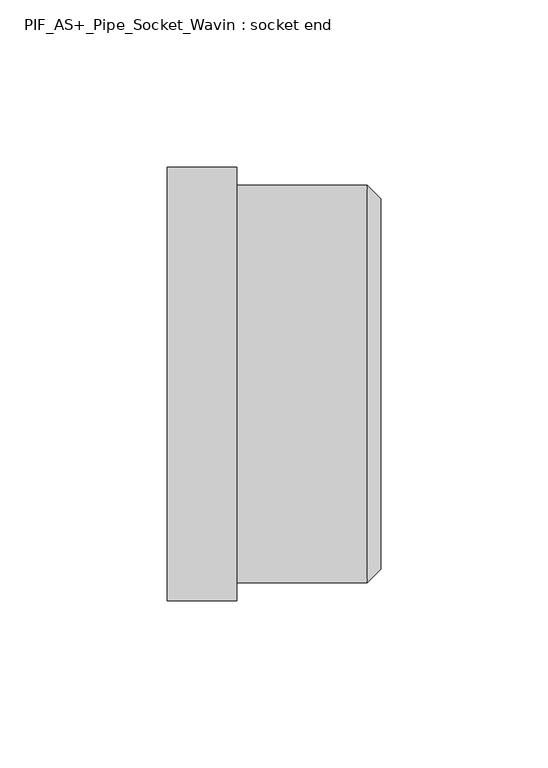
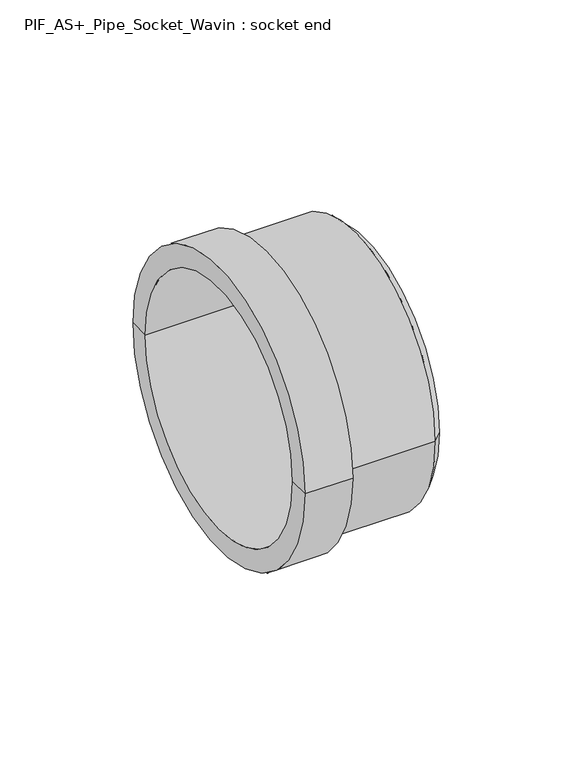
"""IFC4 building model written with IfcOpenShell, lengths in millimetres: pipe fitting geometry, PIF_AS+_Pipe_Socket_Wavin : socket end."""

import ifcopenshell
import ifcopenshell.guid

model = None  # the IFC model being written
_history = None  # IfcOwnerHistory: only IFC2X3 demands one
_inside = {}  # id of a spatial element -> (the spatial element, [elements in it])
_under = {}  # id of a project, library or spatial element -> (it, [spatial elements below it])
_declared = {}  # id of a project -> (the project, [libraries it declares])
_typed = {}  # id of a type object -> (the type object, [elements of that type])
_made_of = {}  # id of a material, layer set ... -> (it, [elements and type objects made of it])


def new_model(schema):
    """Start an empty IFC model of exactly this schema.

    Asked for "IFC4X3", IfcOpenShell would pick the latest addendum, in which some entities
    have other attributes; the version numbers below select the first issue.
    IFC2X3 requires an IfcOwnerHistory on every rooted entity: one is made here for all.
    """
    global model, _history
    if schema == "IFC4X3":
        model = ifcopenshell.file(schema_version=(4, 3, 0, 0))
    else:
        model = ifcopenshell.file(schema=schema)
    _inside.clear()
    _under.clear()
    _declared.clear()
    _typed.clear()
    _made_of.clear()
    _history = None
    if model.schema == "IFC2X3":
        org = make("IfcOrganization", Name="unknown")
        user = make(
            "IfcPersonAndOrganization",
            ThePerson=make("IfcPerson", FamilyName="unknown"),
            TheOrganization=org,
        )
        app = make(
            "IfcApplication",
            ApplicationDeveloper=org,
            Version="unknown",
            ApplicationFullName="unknown",
            ApplicationIdentifier="unknown",
        )
        _history = make(
            "IfcOwnerHistory",
            OwningUser=user,
            OwningApplication=app,
            ChangeAction="ADDED",
            CreationDate=0,
        )
    return model


def make(cls, **values):
    """One entity of the class cls with the attributes given. An attribute that is None is left unset."""
    return model.create_entity(
        cls, **{name: value for name, value in values.items() if value is not None}
    )


def rooted(cls, **values):
    """An entity with a GlobalId (a new one), such as an element, a storey or a relation."""
    return make(cls, GlobalId=ifcopenshell.guid.new(), OwnerHistory=_history, **values)


def si_unit(unit_type, name, prefix=None):
    """IfcSIUnit, for example si_unit("LENGTHUNIT", "METRE", prefix="MILLI")."""
    return make("IfcSIUnit", UnitType=unit_type, Prefix=prefix, Name=name)


def assignment(units):
    """IfcUnitAssignment: the units of a project."""
    return None if units is None else make("IfcUnitAssignment", Units=units)


def point(xyz):
    """IfcCartesianPoint."""
    return None if xyz is None else make("IfcCartesianPoint", Coordinates=xyz)


def direction(xyz):
    """IfcDirection."""
    return None if xyz is None else make("IfcDirection", DirectionRatios=xyz)


def frame(location, z_axis=None, x_axis=None):
    """IfcAxis2Placement3D, a coordinate frame: its origin and axes. An axis left out is left unset."""
    return make(
        "IfcAxis2Placement3D",
        Location=point(location),
        Axis=direction(z_axis),
        RefDirection=direction(x_axis),
    )


def origin():
    """The frame at (0, 0, 0) with its axes left unset."""
    return frame((0.0, 0.0, 0.0))


def place(relative_to, where):
    """IfcLocalPlacement: puts the frame where relative to a parent placement (None: the world)."""
    return make(
        "IfcLocalPlacement", PlacementRelTo=relative_to, RelativePlacement=where
    )


def context(
    kind, dimensions, precision=None, world=None, true_north=None, identifier=None
):
    """IfcGeometricRepresentationContext, for example the 3D "Model" context."""
    return make(
        "IfcGeometricRepresentationContext",
        ContextIdentifier=identifier,
        ContextType=kind,
        CoordinateSpaceDimension=dimensions,
        Precision=precision,
        WorldCoordinateSystem=world,
        TrueNorth=true_north,
    )


def project(units=None, contexts=None):
    """IfcProject with its units and contexts."""
    return rooted(
        "IfcProject",
        Name="project",
        RepresentationContexts=contexts,
        UnitsInContext=assignment(units),
    )


def spatial(cls, under=None, at=None, **own):
    """A site, building, storey or space (cls), placed at a placement, below another one or the project."""
    s = rooted(cls, ObjectPlacement=at, **own)
    if under is not None:
        _under.setdefault(under.id(), (under, []))[1].append(s)
    return s


def polyline(points):
    """IfcPolyline through the points."""
    return make("IfcPolyline", Points=[point(p) for p in points])


def circle_curve(where, radius):
    """IfcCircle in the frame where."""
    return make("IfcCircle", Position=where, Radius=radius)


def shape(context_of_items, identifier, shape_type, items):
    """IfcShapeRepresentation: the items that make up one representation, for example the "Body"."""
    return make(
        "IfcShapeRepresentation",
        ContextOfItems=context_of_items,
        RepresentationIdentifier=identifier,
        RepresentationType=shape_type,
        Items=items,
    )


def source(mapping_origin, context_of_items, identifier, shape_type, items):
    """IfcRepresentationMap: a shape defined once, which mapped items show again and again."""
    return make(
        "IfcRepresentationMap",
        MappingOrigin=mapping_origin,
        MappedRepresentation=shape(context_of_items, identifier, shape_type, items),
    )


def transform(
    local_origin,
    x_axis=None,
    y_axis=None,
    z_axis=None,
    scale=None,
    scale2=None,
    scale3=None,
    uniform=True,
):
    """IfcCartesianTransformationOperator3D, or its non-uniform kind. x_axis, y_axis, z_axis: its Axis1, 2, 3."""
    if uniform:
        return make(
            "IfcCartesianTransformationOperator3D",
            Axis1=direction(x_axis),
            Axis2=direction(y_axis),
            LocalOrigin=point(local_origin),
            Scale=scale,
            Axis3=direction(z_axis),
        )
    return make(
        "IfcCartesianTransformationOperator3DnonUniform",
        Axis1=direction(x_axis),
        Axis2=direction(y_axis),
        LocalOrigin=point(local_origin),
        Scale=scale,
        Axis3=direction(z_axis),
        Scale2=scale2,
        Scale3=scale3,
    )


def mapped(mapping_source, mapping_target):
    """IfcMappedItem: shows the shape of a source again, moved by a transform."""
    return make(
        "IfcMappedItem", MappingSource=mapping_source, MappingTarget=mapping_target
    )


def made_of(thing, what):
    """Note that an element or type object is made of a material, layer set ...; save() writes the relation."""
    if what is not None:
        _made_of.setdefault(what.id(), (what, []))[1].append(thing)
    return thing


def element(
    cls,
    number,
    at=None,
    inside=None,
    cuts=None,
    type_object=None,
    material=None,
    context=None,
    identifier="Body",
    shape_type=None,
    held_by="IfcProductDefinitionShape",
    body=None,
    shapes=None,
    **own,
):
    """One element of the class cls, such as IfcWall. Its Tag is "e" and its number.

    at: its placement. inside: the storey or other place that contains it. cuts: it is an
    opening in that element (IfcRelVoidsElement). A single representation is given by context,
    identifier, shape_type and body (its items); several are given by shapes. held_by: the class
    of the entity that holds the representations. save() writes the other relations.
    """
    e = rooted(cls, Tag="e%d" % number, ObjectPlacement=at, **own)
    if body is not None:
        shapes = [shape(context, identifier, shape_type, body)]
    if shapes is not None:
        e.Representation = make(held_by, Representations=shapes)
    if inside is not None:
        _inside.setdefault(inside.id(), (inside, []))[1].append(e)
    if cuts is not None:
        rooted(
            "IfcRelVoidsElement", RelatingBuildingElement=cuts, RelatedOpeningElement=e
        )
    if type_object is not None:
        _typed.setdefault(type_object.id(), (type_object, []))[1].append(e)
    return made_of(e, material)


def aggregate(whole, parts):
    """IfcRelAggregates: a whole, such as a stair, and the parts it consists of."""
    return rooted("IfcRelAggregates", RelatingObject=whole, RelatedObjects=parts)


def save(model, path):
    """Write the relations noted so far, then the file.

    IfcRelAggregates (storeys below a building ...), IfcRelContainedInSpatialStructure (elements
    in a storey), IfcRelDefinesByType, IfcRelAssociatesMaterial and IfcRelDeclares: one each for
    every whole, place, type object, material and project.
    """
    for whole, parts in _under.values():
        aggregate(whole, parts)
    for where, things in _inside.values():
        rooted(
            "IfcRelContainedInSpatialStructure",
            RelatedElements=things,
            RelatingStructure=where,
        )
    for kind, things in _typed.values():
        rooted("IfcRelDefinesByType", RelatedObjects=things, RelatingType=kind)
    for what, things in _made_of.values():
        rooted("IfcRelAssociatesMaterial", RelatedObjects=things, RelatingMaterial=what)
    for by, libraries in _declared.values():
        rooted("IfcRelDeclares", RelatingContext=by, RelatedDefinitions=libraries)
    model.write(path)


def plane_surface(at):
    """IfcPlane: the flat surface through the origin of the frame at, square to its z axis."""
    return make("IfcPlane", Position=at)


def cylinder_surface(at, radius):
    """IfcCylindricalSurface: all points at the distance radius from the z axis of the frame at."""
    return make("IfcCylindricalSurface", Position=at, Radius=radius)


def revolved_surface(curve, axis_point, axis_direction):
    """IfcSurfaceOfRevolution: the curve turned about the line through axis_point along axis_direction."""
    return make(
        "IfcSurfaceOfRevolution",
        SweptCurve=make("IfcArbitraryOpenProfileDef", ProfileType="CURVE", Curve=curve),
        AxisPosition=make("IfcAxis1Placement", Location=point(axis_point), Axis=direction(axis_direction)),
    )


def advanced_brep(points, edges, surfaces, faces):
    """IfcAdvancedBrep: a solid bounded by faces that lie on surfaces and meet in shared edges.

    An edge is (start, end): straight between two places in points (the first is 0);
    or (start, end, curve); or (start, end, curve, False) where it runs against its curve.
    A face is (place in surfaces, loops), or (place, loops, False) where it looks against
    its surface's normal. A loop lists edges by number (the first is 1), with a minus sign
    where the edge is run from its end to its start. The first loop is the outer one.
    """
    corners = [point(p) for p in points]
    vertices = [make("IfcVertexPoint", VertexGeometry=c) for c in corners]
    made = []
    for start, end, *more in edges:
        made.append(
            make(
                "IfcEdgeCurve",
                EdgeStart=vertices[start],
                EdgeEnd=vertices[end],
                EdgeGeometry=more[0] if more else make("IfcPolyline", Points=[corners[start], corners[end]]),
                SameSense=more[1] if len(more) > 1 else True,
            )
        )
    hull = []
    for where, loops, *sense in faces:
        bounds = []
        for j, loop in enumerate(loops):
            ring = [make("IfcOrientedEdge", EdgeElement=made[abs(k) - 1], Orientation=k > 0) for k in loop]
            bounds.append(
                make(
                    "IfcFaceOuterBound" if j == 0 else "IfcFaceBound",
                    Bound=make("IfcEdgeLoop", EdgeList=ring),
                    Orientation=True,
                )
            )
        hull.append(make("IfcAdvancedFace", Bounds=bounds, FaceSurface=surfaces[where], SameSense=sense[0] if sense else True))
    return make("IfcAdvancedBrep", Outer=make("IfcClosedShell", CfsFaces=hull))


def pif_as_pipe_socket_wavin_socket_end_bd77a64f(model_context):
    return source(origin(), model_context, "Body", "AdvancedBrep", [
        advanced_brep(
        [(4.0, 55.4, 0.0), (4.0, -55.4, 0.0), (0.0, -59.4, 0.0), (0.0, 59.4, 0.0), (4.0, 0.0, 0.0), (0.0, 55.4, 0.0), (0.0, -55.4, 0.0), (0.0, 0.0, 0.0), (-59.7, 55.4, 0.0), (-59.7, -55.4, 0.0), (-59.7, 64.7, 0.0), (-59.7, -64.7, 0.0), (-39.0, 64.7, 0.0), (-39.0, -64.7, 0.0), (-39.0, 59.4, 0.0), (-39.0, -59.4, 0.0)],
        [
            (0, 1, circle_curve(frame((4.0, 0.0, 0.0), z_axis=(-1.0, 0.0, 0.0), x_axis=(0.0, -1.0000000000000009, 0.0)), 55.4)),
            (1, 2),
            (2, 3, circle_curve(frame((0.0, 0.0, 0.0), z_axis=(1.0, 0.0, 0.0), x_axis=(0.0, -1.0000000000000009, 0.0)), 59.4)),
            (3, 0),
            (1, 0, circle_curve(frame((4.0, 0.0, 0.0), z_axis=(-1.0, 0.0, 0.0), x_axis=(0.0, -1.0000000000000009, 0.0)), 55.4)),
            (3, 2, circle_curve(frame((0.0, 0.0, 0.0), z_axis=(1.0, 0.0, 0.0), x_axis=(0.0, -1.0000000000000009, 0.0)), 59.4)),
            (4, 1),
            (0, 4),
            (5, 6, circle_curve(frame((0.0, 0.0, 0.0), z_axis=(-1.0, 0.0, 0.0), x_axis=(0.0, -1.0000000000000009, 0.0)), 55.4)),
            (6, 7),
            (7, 5),
            (6, 5, circle_curve(frame((0.0, 0.0, 0.0), z_axis=(-1.0, 0.0, 0.0), x_axis=(0.0, -1.0000000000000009, 0.0)), 55.4)),
            (8, 9, circle_curve(frame((-59.7, 0.0, 0.0), z_axis=(-1.0, 0.0, 0.0), x_axis=(0.0, -1.0000000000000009, 0.0)), 55.4)),
            (9, 6),
            (5, 8),
            (9, 8, circle_curve(frame((-59.7, 0.0, 0.0), z_axis=(-1.0, 0.0, 0.0), x_axis=(0.0, -1.0000000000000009, 0.0)), 55.4)),
            (10, 11, circle_curve(frame((-59.7, 0.0, 0.0), z_axis=(-1.0, 0.0, 0.0), x_axis=(0.0, -1.0000000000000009, 0.0)), 64.7)),
            (11, 9),
            (8, 10),
            (11, 10, circle_curve(frame((-59.7, 0.0, 0.0), z_axis=(-1.0, 0.0, 0.0), x_axis=(0.0, -1.0000000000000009, 0.0)), 64.7)),
            (12, 13, circle_curve(frame((-39.0, 0.0, 0.0), z_axis=(-1.0, 0.0, 0.0), x_axis=(0.0, -1.0000000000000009, 0.0)), 64.7)),
            (13, 11),
            (10, 12),
            (13, 12, circle_curve(frame((-39.0, 0.0, 0.0), z_axis=(-1.0, 0.0, 0.0), x_axis=(0.0, -1.0000000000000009, 0.0)), 64.7)),
            (14, 15, circle_curve(frame((-39.0, 0.0, 0.0), z_axis=(-1.0, 0.0, 0.0), x_axis=(0.0, -1.0000000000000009, 0.0)), 59.4)),
            (15, 13),
            (12, 14),
            (15, 14, circle_curve(frame((-39.0, 0.0, 0.0), z_axis=(-1.0, 0.0, 0.0), x_axis=(0.0, -1.0000000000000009, 0.0)), 59.4)),
            (2, 15),
            (14, 3),
        ],
        [
            revolved_surface(polyline([(0.0, -59.4, 0.0), (4.0, -55.4, 0.0)]), (-1962.8265064, 0.0, 0.0), (1.0000000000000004, 0.0, 0.0)),
            plane_surface(frame((4.0, 0.0, 0.0), z_axis=(1.0, 0.0, 0.0), x_axis=(0.0, -1.0, 0.0))),
            plane_surface(frame((0.0, 0.0, 0.0), z_axis=(-1.0, 0.0, 0.0), x_axis=(0.0, -1.0, 0.0))),
            revolved_surface(polyline([(1.8189894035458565e-12, -55.40000000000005, 0.0), (-59.69999999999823, -55.40000000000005, 0.0)]), (-1962.8265064, 0.0, 0.0), (1.0000000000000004, 0.0, 0.0)),
            plane_surface(frame((-59.7, 0.0, 0.0), z_axis=(-1.0, 0.0, 0.0), x_axis=(0.0, -1.0, 0.0))),
            cylinder_surface(frame((-1962.8265064, 0.0, 0.0), z_axis=(1.0000000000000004, 0.0, 0.0), x_axis=(0.0, -1.0000000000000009, 0.0)), 64.7),
            plane_surface(frame((-39.0, 0.0, 0.0), z_axis=(1.0, 0.0, 0.0), x_axis=(0.0, -1.0, 0.0))),
            cylinder_surface(frame((-1962.8265064, 0.0, 0.0), z_axis=(1.0000000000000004, 0.0, 0.0), x_axis=(0.0, -1.0000000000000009, 0.0)), 59.4),
        ],
        [
            (0, [[1, 2, 3, 4]]),
            (0, [[5, -4, 6, -2]]),
            (1, [[7, -1, 8]]),
            (1, [[-8, -5, -7]]),
            (2, [[9, 10, 11]]),
            (2, [[12, -11, -10]]),
            (3, [[13, 14, -9, 15]]),
            (3, [[16, -15, -12, -14]]),
            (4, [[17, 18, -13, 19]]),
            (4, [[20, -19, -16, -18]]),
            (5, [[21, 22, -17, 23]]),
            (5, [[24, -23, -20, -22]]),
            (6, [[25, 26, -21, 27]]),
            (6, [[28, -27, -24, -26]]),
            (7, [[-3, 29, -25, 30]]),
            (7, [[-6, -30, -28, -29]]),
        ],
    ),
    ])


if __name__ == "__main__":
    model = new_model("IFC4")
    model_context = context("Model", 3, world=origin())
    ifc_project = project(units=[si_unit("LENGTHUNIT", "METRE", prefix="MILLI")], contexts=[model_context])
    site = spatial("IfcSite", under=ifc_project)
    building = spatial("IfcBuilding", under=site)
    placement = place(None, origin())
    pif_as_pipe_socket_wavin_socket_end_shape = pif_as_pipe_socket_wavin_socket_end_bd77a64f(model_context)
    element("IfcPipeFitting", 1, ObjectType="PIF_AS+_Pipe_Socket_Wavin : socket end", at=placement, inside=building, context=model_context, shape_type="MappedRepresentation", body=[
        mapped(pif_as_pipe_socket_wavin_socket_end_shape, transform((0.0, 0.0, 0.0), x_axis=(1.0, 0.0, 0.0), y_axis=(0.0, 1.0, 0.0), z_axis=(0.0, 0.0, 1.0))),
    ])
    save(model, "model.ifc")
